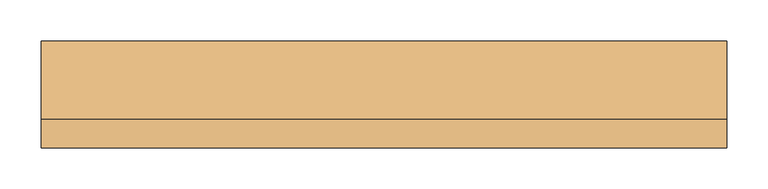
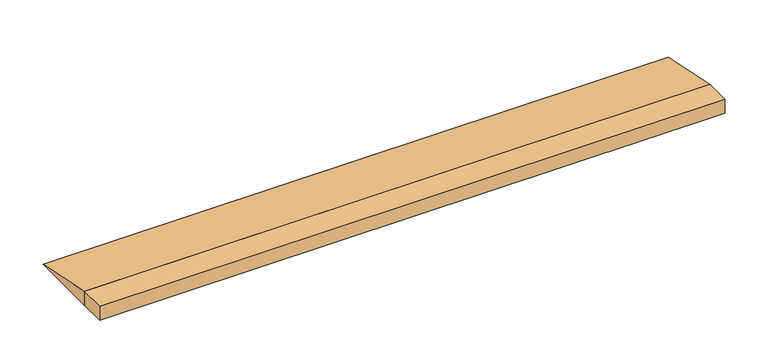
"""IFC4 building model written with IfcOpenShell, lengths in millimetres: door geometry, FDE_SO_Soleiras1 : SO14_SoleiraRampadaDesnívelAté2cm_L=14cm_Cimentado 2."""

from ifc_helpers import new_model, si_unit, frame, origin, place, context, project, spatial, polyline, outline, extrude, source, transform, mapped, element, save


def door_95b59213(model_context):
    return source(origin(), model_context, "Body", "SweptSolid", [
        extrude(outline(polyline([(-35.0, 0.0), (60.0, -20.0), (-35.0, -20.0), (-35.0, 0.0)])), frame((-417.0, 0.0, 0.0), z_axis=(1.0, 0.0, 0.0), x_axis=(0.0, 1.0, 0.0)), (0.0, 0.0, 1.0), 834.0),
        extrude(outline(polyline([(417.0, -70.0), (-417.0, -70.0), (-417.0, -35.0), (417.0, -35.0), (417.0, -70.0)])), frame((0.0, 0.0, -20.0), z_axis=(0.0, 0.0, 1.0), x_axis=(1.0, 0.0, 0.0)), (0.0, 0.0, 1.0), 20.0),
    ])


if __name__ == "__main__":
    model = new_model("IFC4")
    model_context = context("Model", 3, world=origin())
    ifc_project = project(units=[si_unit("LENGTHUNIT", "METRE", prefix="MILLI")], contexts=[model_context])
    site = spatial("IfcSite", under=ifc_project)
    building = spatial("IfcBuilding", under=site)
    placement = place(None, origin())
    door_shape = door_95b59213(model_context)
    element("IfcDoor", 1, ObjectType="FDE_SO_Soleiras1 : SO14_SoleiraRampadaDesnívelAté2cm_L=14cm_Cimentado 2", at=placement, inside=building, context=model_context, shape_type="MappedRepresentation", body=[
        mapped(door_shape, transform((0.0, 0.0, 0.0), x_axis=(1.0, 0.0, 0.0), y_axis=(0.0, 1.0, 0.0), z_axis=(0.0, 0.0, 1.0))),
    ])
    save(model, "model.ifc")
